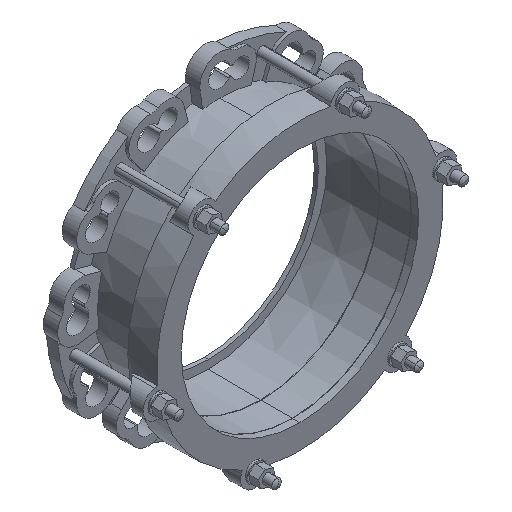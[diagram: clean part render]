
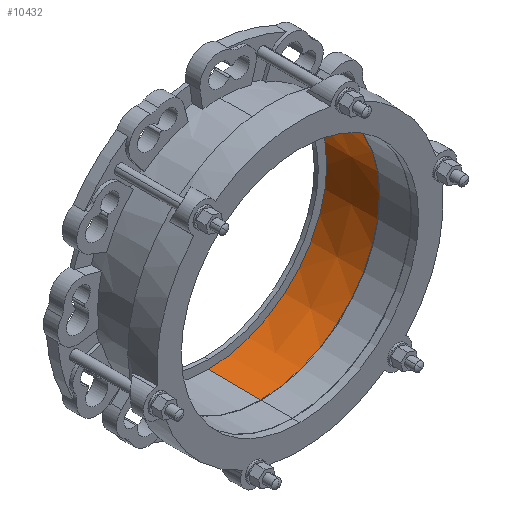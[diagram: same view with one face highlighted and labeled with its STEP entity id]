
A CAD part, isometric view. The second image highlights one B-rep face of the part: STEP entity #10432.
In plain terms, the highlighted conical face has half-angle 0.661 degrees and reference radius 147.875 mm.
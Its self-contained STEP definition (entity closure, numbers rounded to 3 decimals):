
#3645=CARTESIAN_POINT('',(0.,-69.999,0.));
#3646=DIRECTION('',(0.,-1.,0.));
#3647=DIRECTION('',(0.,0.,-1.));
#3648=AXIS2_PLACEMENT_3D('',#3645,#3646,#3647);
#3650=CARTESIAN_POINT('',(0.,-5.,0.));
#3651=DIRECTION('',(0.,-1.,0.));
#3652=DIRECTION('',(0.,0.,-1.));
#3653=AXIS2_PLACEMENT_3D('',#3650,#3651,#3652);
#3655=DIRECTION('',(0.,-1.,-0.012));
#3656=VECTOR('',#3655,65.003);
#3657=CARTESIAN_POINT('',(0.,-5.,-147.5));
#3658=LINE('',#3657,#3656);
#3659=DIRECTION('',(0.,-1.,0.012));
#3660=VECTOR('',#3659,65.003);
#3661=CARTESIAN_POINT('',(0.,-5.,147.5));
#3662=LINE('',#3661,#3660);
#4596=CARTESIAN_POINT('',(0.,-5.,-147.5));
#4597=CARTESIAN_POINT('',(0.,-69.999,-148.25));
#4598=VERTEX_POINT('',#4596);
#4599=VERTEX_POINT('',#4597);
#4616=CARTESIAN_POINT('',(0.,-5.,147.5));
#4617=CARTESIAN_POINT('',(0.,-69.999,148.25));
#4618=VERTEX_POINT('',#4616);
#4619=VERTEX_POINT('',#4617);
#10418=CARTESIAN_POINT('',(0.,-37.5,0.));
#10419=DIRECTION('',(0.,-1.,0.));
#10420=DIRECTION('',(0.,0.,1.));
#10421=AXIS2_PLACEMENT_3D('',#10418,#10419,#10420);
#10422=CONICAL_SURFACE('',#10421,147.875,0.661);
#10424=ORIENTED_EDGE('',*,*,#10423,.F.);
#10426=ORIENTED_EDGE('',*,*,#10425,.T.);
#10428=ORIENTED_EDGE('',*,*,#10427,.T.);
#10429=ORIENTED_EDGE('',*,*,#10411,.F.);
#10430=EDGE_LOOP('',(#10424,#10426,#10428,#10429));
#10431=FACE_OUTER_BOUND('',#10430,.F.);
#10432=ADVANCED_FACE('',(#10431),#10422,.F.);
#3649=CIRCLE('',#3648,148.25);
#3654=CIRCLE('',#3653,147.5);
#10411=EDGE_CURVE('',#4599,#4619,#3649,.T.);
#10423=EDGE_CURVE('',#4598,#4599,#3658,.T.);
#10425=EDGE_CURVE('',#4598,#4618,#3654,.T.);
#10427=EDGE_CURVE('',#4618,#4619,#3662,.T.);
